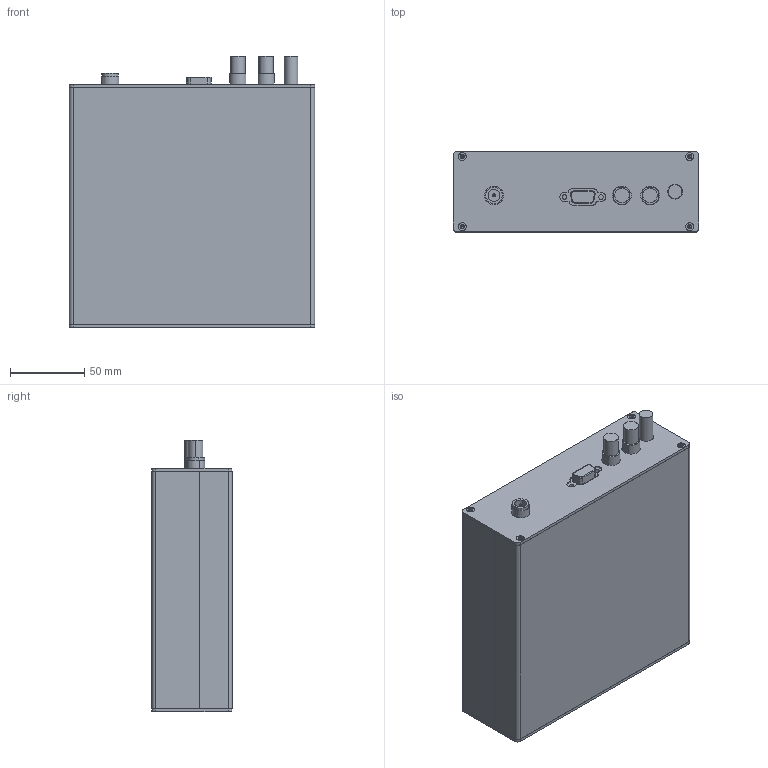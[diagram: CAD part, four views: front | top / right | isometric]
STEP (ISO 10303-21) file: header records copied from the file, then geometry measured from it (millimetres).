
FILE_DESCRIPTION (( 'STEP AP214' ), '1' );
FILE_NAME ('GPSDO 00.STEP', '2025-04-23T01:37:43', ( '' ), ( '' ), 'SwSTEP 2.0', 'SolidWorks 2025', '' );
FILE_SCHEMA (( 'AUTOMOTIVE_DESIGN' ));
Length unit declared in the file: millimetre
Products named in the file (12): B18.3.5M - 3 x 0.5 x 8 Socket FCHS  -- 8N_B18.3.5M - 3 x 0.5 x 8 Socket FCHS  -- 8N; ko_hl_2_160; NHD-0420AZ-FL-YBW-33V3; GPSDO 01; acrylic; Trimple 37265; ko_hl_4x160; GPSDO 03; GPSDO 02; TPS 01; L722AS; GPSDO 00
Assembly tree (18 placements, depth 2):
  GPSDO 00
    ko_hl_2_160
    ko_hl_4x160
    GPSDO 01
    GPSDO 02
    Trimple 37265
    NHD-0420AZ-FL-YBW-33V3
    acrylic
    L722AS
    TPS 01
    GPSDO 03
    B18.3.5M - 3 x 0.5 x 8 Socket FCHS  -- 8N_B18.3.5M - 3 x 0.5 x 8 Socket FCHS  -- 8N  x8
Bounding box: 165 x 54.2 x 182.9 mm (x, y, z)
Volume: 413477.9 mm3; surface area: 313287.6 mm2
Topology: 18 solids, 58 shells, 4263 faces, 10807 edges, 6926 vertices
Faces by surface type: plane 2765, cylinder 1129, torus 225, cone 122, bspline 18, sphere 4
Entity records: 164696 total; most frequent: CARTESIAN_POINT 41167, ORIENTED_EDGE 20806, DIRECTION 15820, EDGE_CURVE 10409, VERTEX_POINT 6707, AXIS2_PLACEMENT_3D 5586, EDGE_LOOP 4774, LINE 4648
